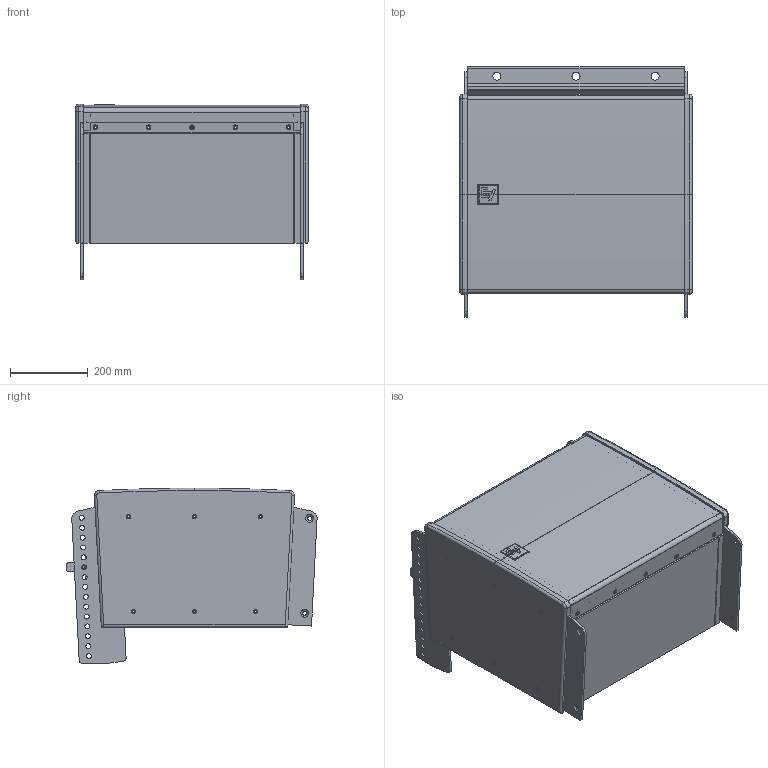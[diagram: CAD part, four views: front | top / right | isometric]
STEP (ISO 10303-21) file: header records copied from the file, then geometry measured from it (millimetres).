
FILE_DESCRIPTION (( 'STEP AP214' ), '1' );
FILE_NAME ('EVA-2082S-126 Top Element With Grid 3D CAD.STEP', '2023-03-14T05:36:12', ( '' ), ( '' ), 'SwSTEP 2.0', 'SolidWorks 2021', '' );
FILE_SCHEMA (( 'AUTOMOTIVE_DESIGN' ));
Length unit declared in the file: millimetre
Products named in the file (14): EVA-2082S-126 Cover Plate; EVA-2082S-126 Side Plate; EVA-2082S-126 EVA Grid Left Side; EVA-2082S-126 Spreader Bar; EVA-2082S-126 Top And Bottom Plate; EVA-2082S-126 Back Plate; EVA-2082S-126 Top Element With Grid 3D CAD; EVA-2082S-126 EVA Grid Right Side; EVA-2082S-126 Grille; EVA-2082S-126 Enclosure Assembly; EVA-2082S-126 Rear Panel; EVA-2082S-126 Extended Grid; EVA-2082S-126 EV Logo
Assembly tree (16 placements, depth 3):
  EVA-2082S-126 Top Element With Grid 3D CAD
    EVA-2082S-126 Enclosure Assembly
      EVA-2082S-126 Back Plate
      EVA-2082S-126 Side Plate
      EVA-2082S-126 Side Plate
      EVA-2082S-126 Top And Bottom Plate  x2
    EVA-2082S-126 Grille
    EVA-2082S-126 EV Logo
    EVA-2082S-126 Rear Panel
    EVA-2082S-126 EVA Grid Left Side
    EVA-2082S-126 EVA Grid Right Side
    EVA-2082S-126 Extended Grid  x2
    EVA-2082S-126 Cover Plate  x2
    EVA-2082S-126 Spreader Bar
Bounding box: 596.9 x 643.09 x 452.37 mm (x, y, z)
Volume: 24720077.8 mm3; surface area: 4125271.6 mm2
Topology: 15 solids, 15 shells, 978 faces, 2535 edges, 1613 vertices
Faces by surface type: cylinder 357, plane 324, bspline 129, cone 120, torus 48
Entity records: 31167 total; most frequent: CARTESIAN_POINT 9516, ORIENTED_EDGE 4440, DIRECTION 4269, EDGE_CURVE 2220, AXIS2_PLACEMENT_3D 1599, VERTEX_POINT 1416, EDGE_LOOP 1092, LINE 1071
